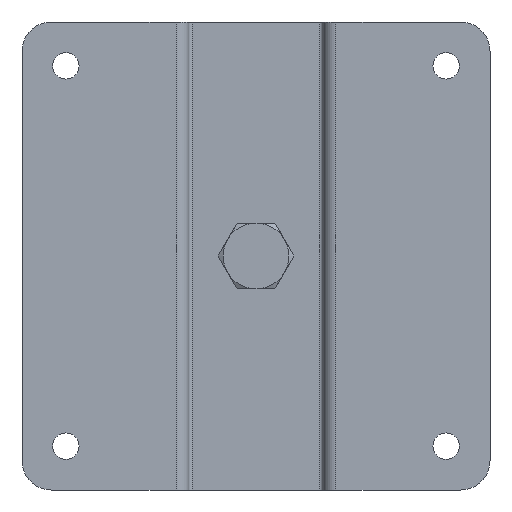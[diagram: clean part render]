
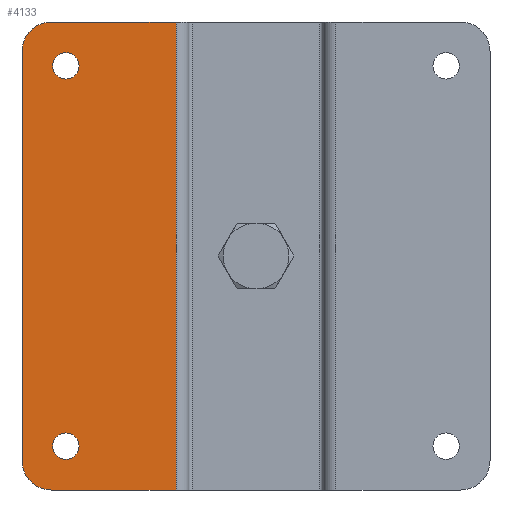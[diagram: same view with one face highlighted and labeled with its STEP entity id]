
A CAD part, front view. The second image highlights one B-rep face of the part: STEP entity #4133.
In plain terms, the highlighted planar face has unit normal (0, -1, 0).
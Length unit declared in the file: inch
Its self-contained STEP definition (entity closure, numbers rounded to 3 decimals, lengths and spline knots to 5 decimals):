
#47 = CARTESIAN_POINT ( 'NONE',  ( -2., 0., 0.25 ) ) ;
#119 = CARTESIAN_POINT ( 'NONE',  ( -1.625, 0., 0.4875 ) ) ;
#197 = DIRECTION ( 'NONE',  ( 0., 0., -1. ) ) ;
#234 = VECTOR ( 'NONE', #415, 39.37008 ) ;
#414 = ORIENTED_EDGE ( 'NONE', *, *, #5938, .T. ) ;
#415 = DIRECTION ( 'NONE',  ( -1., 0., 0. ) ) ;
#467 = VECTOR ( 'NONE', #1517, 39.37008 ) ;
#554 = LINE ( 'NONE', #1349, #234 ) ;
#564 = CARTESIAN_POINT ( 'NONE',  ( -1.625, 0., 0.375 ) ) ;
#673 = CIRCLE ( 'NONE', #5441, 0.1125 ) ;
#701 = EDGE_LOOP ( 'NONE', ( #6112, #5452, #5223, #3010, #3073, #5399 ) ) ;
#751 = VERTEX_POINT ( 'NONE', #3964 ) ;
#783 = DIRECTION ( 'NONE',  ( 0., 1., 0. ) ) ;
#804 = VERTEX_POINT ( 'NONE', #4055 ) ;
#815 = EDGE_CURVE ( 'NONE', #4091, #1055, #1987, .T. ) ;
#816 = AXIS2_PLACEMENT_3D ( 'NONE', #1370, #2788, #3826 ) ;
#860 = CIRCLE ( 'NONE', #816, 0.25 ) ;
#868 = EDGE_CURVE ( 'NONE', #2861, #751, #554, .T. ) ;
#953 = CIRCLE ( 'NONE', #3314, 0.25 ) ;
#970 = DIRECTION ( 'NONE',  ( 0., 0., -1. ) ) ;
#977 = ORIENTED_EDGE ( 'NONE', *, *, #2188, .T. ) ;
#1055 = VERTEX_POINT ( 'NONE', #1402 ) ;
#1234 = CIRCLE ( 'NONE', #5910, 0.1125 ) ;
#1237 = DIRECTION ( 'NONE',  ( 0., 0., 1. ) ) ;
#1349 = CARTESIAN_POINT ( 'NONE',  ( -2., 0., 0. ) ) ;
#1370 = CARTESIAN_POINT ( 'NONE',  ( -1.75, 0., 0.25 ) ) ;
#1402 = CARTESIAN_POINT ( 'NONE',  ( -1.75, 0., 4. ) ) ;
#1419 = LINE ( 'NONE', #2773, #1698 ) ;
#1517 = DIRECTION ( 'NONE',  ( -1., 0., 0. ) ) ;
#1644 = EDGE_CURVE ( 'NONE', #4539, #4360, #1234, .T. ) ;
#1698 = VECTOR ( 'NONE', #197, 39.37008 ) ;
#1816 = DIRECTION ( 'NONE',  ( 0., 0., 1. ) ) ;
#1987 = LINE ( 'NONE', #2092, #467 ) ;
#2092 = CARTESIAN_POINT ( 'NONE',  ( -2., 0., 4. ) ) ;
#2137 = AXIS2_PLACEMENT_3D ( 'NONE', #3376, #3975, #3176 ) ;
#2188 = EDGE_CURVE ( 'NONE', #4360, #4539, #2803, .T. ) ;
#2252 = EDGE_CURVE ( 'NONE', #1055, #804, #953, .T. ) ;
#2270 = VERTEX_POINT ( 'NONE', #4771 ) ;
#2336 = CARTESIAN_POINT ( 'NONE',  ( -1.625, 0., 3.625 ) ) ;
#2390 = DIRECTION ( 'NONE',  ( 0., -1., 0. ) ) ;
#2506 = CIRCLE ( 'NONE', #2137, 0.1125 ) ;
#2562 = CARTESIAN_POINT ( 'NONE',  ( -1.625, 0., 3.5125 ) ) ;
#2596 = EDGE_LOOP ( 'NONE', ( #2869, #977 ) ) ;
#2773 = CARTESIAN_POINT ( 'NONE',  ( -0.682, 0., 4. ) ) ;
#2788 = DIRECTION ( 'NONE',  ( 0., -1., 0. ) ) ;
#2803 = CIRCLE ( 'NONE', #6322, 0.1125 ) ;
#2842 = CARTESIAN_POINT ( 'NONE',  ( -1.625, 0., 0.375 ) ) ;
#2861 = VERTEX_POINT ( 'NONE', #4978 ) ;
#2869 = ORIENTED_EDGE ( 'NONE', *, *, #1644, .T. ) ;
#2872 = DIRECTION ( 'NONE',  ( 0., 0., 1. ) ) ;
#2960 = FACE_OUTER_BOUND ( 'NONE', #701, .T. ) ;
#3010 = ORIENTED_EDGE ( 'NONE', *, *, #5661, .T. ) ;
#3073 = ORIENTED_EDGE ( 'NONE', *, *, #868, .F. ) ;
#3173 = EDGE_CURVE ( 'NONE', #2270, #5606, #2506, .T. ) ;
#3176 = DIRECTION ( 'NONE',  ( 0., 0., 1. ) ) ;
#3255 = FACE_BOUND ( 'NONE', #4496, .T. ) ;
#3314 = AXIS2_PLACEMENT_3D ( 'NONE', #4807, #2390, #3401 ) ;
#3376 = CARTESIAN_POINT ( 'NONE',  ( -1.625, 0., 3.625 ) ) ;
#3401 = DIRECTION ( 'NONE',  ( 0., 0., -1. ) ) ;
#3484 = EDGE_CURVE ( 'NONE', #4091, #2861, #1419, .T. ) ;
#3649 = AXIS2_PLACEMENT_3D ( 'NONE', #4472, #4943, #970 ) ;
#3826 = DIRECTION ( 'NONE',  ( 0., 0., -1. ) ) ;
#3916 = FACE_BOUND ( 'NONE', #2596, .T. ) ;
#3964 = CARTESIAN_POINT ( 'NONE',  ( -1.75, 0., 0. ) ) ;
#3975 = DIRECTION ( 'NONE',  ( 0., 1., 0. ) ) ;
#4055 = CARTESIAN_POINT ( 'NONE',  ( -2., 0., 3.75 ) ) ;
#4091 = VERTEX_POINT ( 'NONE', #4969 ) ;
#4133 = ADVANCED_FACE ( 'NONE', ( #3255, #3916, #2960 ), #5416, .T. ) ;
#4142 = CARTESIAN_POINT ( 'NONE',  ( -1.625, 0., 0.2625 ) ) ;
#4252 = ORIENTED_EDGE ( 'NONE', *, *, #3173, .T. ) ;
#4268 = LINE ( 'NONE', #5044, #5590 ) ;
#4360 = VERTEX_POINT ( 'NONE', #4142 ) ;
#4383 = DIRECTION ( 'NONE',  ( 0., 0., -1. ) ) ;
#4472 = CARTESIAN_POINT ( 'NONE',  ( -2., 0., 4. ) ) ;
#4496 = EDGE_LOOP ( 'NONE', ( #4252, #414 ) ) ;
#4539 = VERTEX_POINT ( 'NONE', #119 ) ;
#4643 = DIRECTION ( 'NONE',  ( 0., 1., 0. ) ) ;
#4771 = CARTESIAN_POINT ( 'NONE',  ( -1.625, 0., 3.7375 ) ) ;
#4778 = VERTEX_POINT ( 'NONE', #47 ) ;
#4807 = CARTESIAN_POINT ( 'NONE',  ( -1.75, 0., 3.75 ) ) ;
#4943 = DIRECTION ( 'NONE',  ( 0., -1., 0. ) ) ;
#4969 = CARTESIAN_POINT ( 'NONE',  ( -0.682, 0., 4. ) ) ;
#4978 = CARTESIAN_POINT ( 'NONE',  ( -0.682, 0., 0. ) ) ;
#5044 = CARTESIAN_POINT ( 'NONE',  ( -2., 0., 4. ) ) ;
#5223 = ORIENTED_EDGE ( 'NONE', *, *, #5432, .T. ) ;
#5399 = ORIENTED_EDGE ( 'NONE', *, *, #3484, .F. ) ;
#5416 = PLANE ( 'NONE',  #3649 ) ;
#5432 = EDGE_CURVE ( 'NONE', #804, #4778, #4268, .T. ) ;
#5441 = AXIS2_PLACEMENT_3D ( 'NONE', #2336, #5723, #2872 ) ;
#5452 = ORIENTED_EDGE ( 'NONE', *, *, #2252, .T. ) ;
#5590 = VECTOR ( 'NONE', #4383, 39.37008 ) ;
#5606 = VERTEX_POINT ( 'NONE', #2562 ) ;
#5661 = EDGE_CURVE ( 'NONE', #4778, #751, #860, .T. ) ;
#5723 = DIRECTION ( 'NONE',  ( 0., 1., 0. ) ) ;
#5910 = AXIS2_PLACEMENT_3D ( 'NONE', #564, #4643, #1237 ) ;
#5938 = EDGE_CURVE ( 'NONE', #5606, #2270, #673, .T. ) ;
#6112 = ORIENTED_EDGE ( 'NONE', *, *, #815, .T. ) ;
#6322 = AXIS2_PLACEMENT_3D ( 'NONE', #2842, #783, #1816 ) ;
